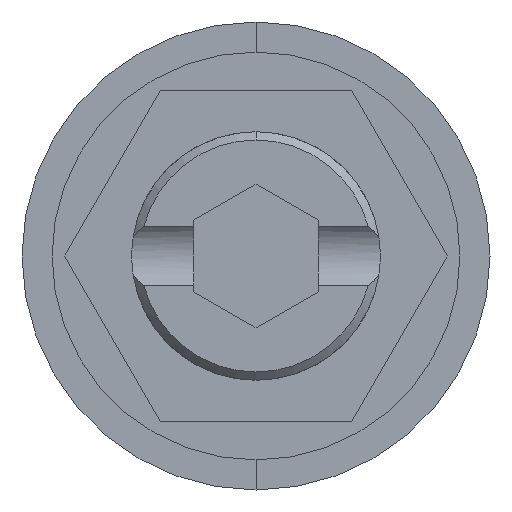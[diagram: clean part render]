
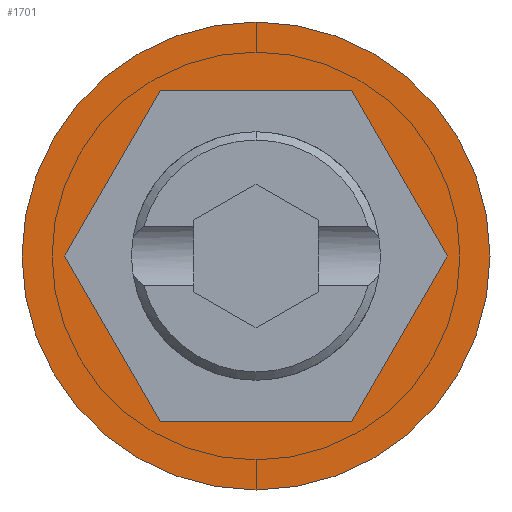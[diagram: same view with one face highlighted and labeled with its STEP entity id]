
A CAD part, front view. The second image highlights one B-rep face of the part: STEP entity #1701.
In plain terms, the highlighted planar face has unit normal (0, -1, 0).
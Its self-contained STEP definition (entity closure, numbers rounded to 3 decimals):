
#12 = ORIENTED_EDGE ( 'NONE', *, *, #4124, .F. ) ;
#102 = LINE ( 'NONE', #2623, #4145 ) ;
#125 = EDGE_LOOP ( 'NONE', ( #3177, #3112, #2877, #1238, #1323, #12 ) ) ;
#131 = ORIENTED_EDGE ( 'NONE', *, *, #1261, .T. ) ;
#288 = VERTEX_POINT ( 'NONE', #2481 ) ;
#332 = ORIENTED_EDGE ( 'NONE', *, *, #2514, .T. ) ;
#510 = VECTOR ( 'NONE', #1337, 1000. ) ;
#579 = DIRECTION ( 'NONE',  ( 0., 0., -1. ) ) ;
#614 = FACE_OUTER_BOUND ( 'NONE', #3975, .T. ) ;
#616 = VERTEX_POINT ( 'NONE', #2134 ) ;
#639 = DIRECTION ( 'NONE',  ( -1., 0., 0. ) ) ;
#662 = VERTEX_POINT ( 'NONE', #1271 ) ;
#910 = CARTESIAN_POINT ( 'NONE',  ( 0., 0., 5.65 ) ) ;
#926 = CIRCLE ( 'NONE', #4094, 5.65 ) ;
#965 = EDGE_CURVE ( 'NONE', #2032, #4062, #4018, .T. ) ;
#972 = CARTESIAN_POINT ( 'NONE',  ( -4.619, 0., 0. ) ) ;
#986 = VECTOR ( 'NONE', #2103, 1000. ) ;
#1189 = CARTESIAN_POINT ( 'NONE',  ( -2.309, 0., -4. ) ) ;
#1224 = DIRECTION ( 'NONE',  ( 0., -1., 0. ) ) ;
#1238 = ORIENTED_EDGE ( 'NONE', *, *, #3336, .F. ) ;
#1261 = EDGE_CURVE ( 'NONE', #288, #2925, #1744, .T. ) ;
#1271 = CARTESIAN_POINT ( 'NONE',  ( 4.619, 0., 0. ) ) ;
#1318 = EDGE_CURVE ( 'NONE', #616, #1766, #3323, .T. ) ;
#1323 = ORIENTED_EDGE ( 'NONE', *, *, #1465, .F. ) ;
#1337 = DIRECTION ( 'NONE',  ( 1., 0., 0. ) ) ;
#1465 = EDGE_CURVE ( 'NONE', #662, #3173, #3782, .T. ) ;
#1532 = AXIS2_PLACEMENT_3D ( 'NONE', #3571, #2567, #579 ) ;
#1549 = PLANE ( 'NONE',  #1532 ) ;
#1701 = ADVANCED_FACE ( 'NONE', ( #2484, #614 ), #1549, .T. ) ;
#1744 = CIRCLE ( 'NONE', #3483, 5.65 ) ;
#1762 = DIRECTION ( 'NONE',  ( 0., -1., 0. ) ) ;
#1765 = CARTESIAN_POINT ( 'NONE',  ( 4.619, 0., 0. ) ) ;
#1766 = VERTEX_POINT ( 'NONE', #972 ) ;
#1902 = LINE ( 'NONE', #2085, #986 ) ;
#1983 = CARTESIAN_POINT ( 'NONE',  ( -4.619, 0., 0. ) ) ;
#1999 = VECTOR ( 'NONE', #3113, 1000. ) ;
#2032 = VERTEX_POINT ( 'NONE', #2052 ) ;
#2052 = CARTESIAN_POINT ( 'NONE',  ( -2.309, 0., -4. ) ) ;
#2085 = CARTESIAN_POINT ( 'NONE',  ( 2.309, 0., -4. ) ) ;
#2103 = DIRECTION ( 'NONE',  ( 0.5, 0., 0.866 ) ) ;
#2134 = CARTESIAN_POINT ( 'NONE',  ( -2.309, 0., 4. ) ) ;
#2178 = CARTESIAN_POINT ( 'NONE',  ( -2.309, 0., 4. ) ) ;
#2314 = DIRECTION ( 'NONE',  ( 0.5, 0., -0.866 ) ) ;
#2336 = DIRECTION ( 'NONE',  ( 0., 0., -1. ) ) ;
#2481 = CARTESIAN_POINT ( 'NONE',  ( 0., 0., -5.65 ) ) ;
#2484 = FACE_BOUND ( 'NONE', #125, .T. ) ;
#2514 = EDGE_CURVE ( 'NONE', #2925, #288, #926, .T. ) ;
#2567 = DIRECTION ( 'NONE',  ( 0., -1., 0. ) ) ;
#2623 = CARTESIAN_POINT ( 'NONE',  ( 2.309, 0., 4. ) ) ;
#2858 = DIRECTION ( 'NONE',  ( -0.5, 0., -0.866 ) ) ;
#2877 = ORIENTED_EDGE ( 'NONE', *, *, #1318, .F. ) ;
#2925 = VERTEX_POINT ( 'NONE', #910 ) ;
#3017 = CARTESIAN_POINT ( 'NONE',  ( 2.309, 0., 4. ) ) ;
#3078 = VECTOR ( 'NONE', #2314, 1000. ) ;
#3094 = CARTESIAN_POINT ( 'NONE',  ( 2.309, 0., -4. ) ) ;
#3112 = ORIENTED_EDGE ( 'NONE', *, *, #3414, .F. ) ;
#3113 = DIRECTION ( 'NONE',  ( -0.5, 0., 0.866 ) ) ;
#3173 = VERTEX_POINT ( 'NONE', #3017 ) ;
#3177 = ORIENTED_EDGE ( 'NONE', *, *, #965, .F. ) ;
#3237 = VECTOR ( 'NONE', #2858, 1000. ) ;
#3240 = CARTESIAN_POINT ( 'NONE',  ( 0., 0., 0. ) ) ;
#3298 = LINE ( 'NONE', #1983, #3078 ) ;
#3323 = LINE ( 'NONE', #2178, #3237 ) ;
#3336 = EDGE_CURVE ( 'NONE', #3173, #616, #102, .T. ) ;
#3414 = EDGE_CURVE ( 'NONE', #1766, #2032, #3298, .T. ) ;
#3483 = AXIS2_PLACEMENT_3D ( 'NONE', #3639, #1762, #2336 ) ;
#3567 = DIRECTION ( 'NONE',  ( 0., 0., -1. ) ) ;
#3571 = CARTESIAN_POINT ( 'NONE',  ( 0., 0., 0. ) ) ;
#3639 = CARTESIAN_POINT ( 'NONE',  ( 0., 0., 0. ) ) ;
#3782 = LINE ( 'NONE', #1765, #1999 ) ;
#3975 = EDGE_LOOP ( 'NONE', ( #131, #332 ) ) ;
#4018 = LINE ( 'NONE', #1189, #510 ) ;
#4062 = VERTEX_POINT ( 'NONE', #3094 ) ;
#4094 = AXIS2_PLACEMENT_3D ( 'NONE', #3240, #1224, #3567 ) ;
#4124 = EDGE_CURVE ( 'NONE', #4062, #662, #1902, .T. ) ;
#4145 = VECTOR ( 'NONE', #639, 1000. ) ;
